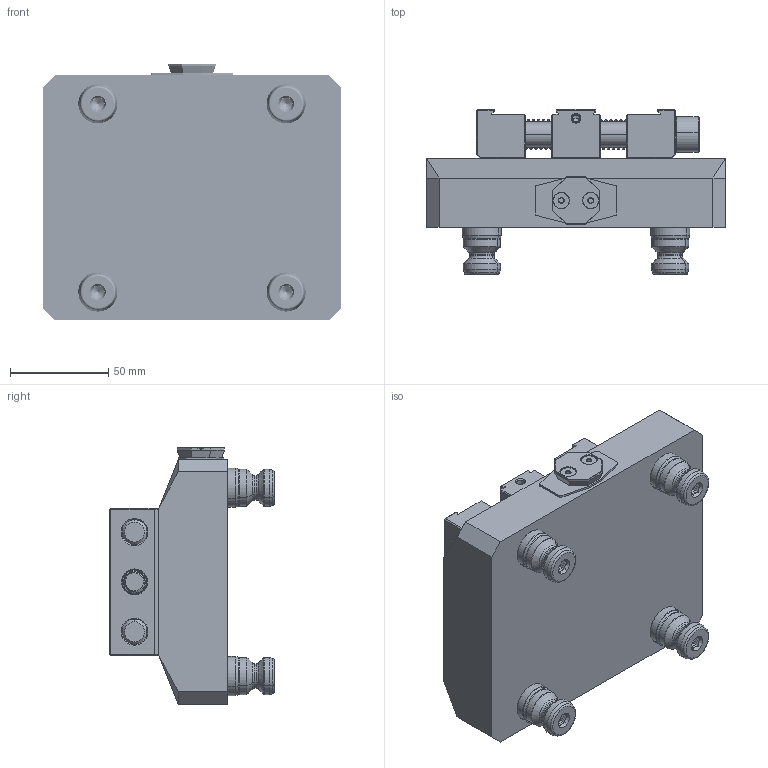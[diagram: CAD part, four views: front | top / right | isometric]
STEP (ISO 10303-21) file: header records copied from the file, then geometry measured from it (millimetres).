
FILE_DESCRIPTION (( 'STEP AP203' ), '1' );
FILE_NAME ('A96-PV3X-4A.STEP', '2022-02-09T18:20:37', ( '' ), ( '' ), 'SwSTEP 2.0', 'SolidWorks 2021', '' );
FILE_SCHEMA (( 'CONFIG_CONTROL_DESIGN' ));
Length unit declared in the file: millimetre
Products named in the file (20): PV3X-1_FINISHED PART ; PS20F-1_HARD TURN; 91263A829_ZINC-PLATED ALLOY STEEL HEX DRIVE FLAT HEAD SCREW_91263A829; LC045H10M_1.16374803; AS-TP; PV3X-4A_BOM; PS20F; PV3X-3A_FINISHED PART; 91595A100_METRIC ALLOY STEEL DOWEL PIN_91595A100; M12X100.SHCS_91290A646; AS-C; PV3X-2A_FINISHED PART; M10X25.CPSS_91390A162; AS-S; A96-PV3X-4A; M12X080.SHCS_91290A646; M06X010.DP_91595A438; A96-PV3X-1; M8X025_91290A432; 0500X4000.DP_0500X4000.DP
Assembly tree (28 placements, depth 3):
  A96-PV3X-4A
    PV3X-4A_BOM
      PV3X-1_FINISHED PART 
      PV3X-2A_FINISHED PART
      PV3X-3A_FINISHED PART
      0500X4000.DP_0500X4000.DP  x2
      M12X080.SHCS_91290A646
      M12X100.SHCS_91290A646
      LC045H10M_1.16374803  x2
      M8X025_91290A432  x2
      M06X010.DP_91595A438  x2
    AS-TP
      AS-C
      AS-S
      91263A829_ZINC-PLATED ALLOY STEEL HEX DRIVE FLAT HEAD SCREW_91263A829  x2
      91595A100_METRIC ALLOY STEEL DOWEL PIN_91595A100  x2
    A96-PV3X-1
    PS20F  x4
      PS20F-1_HARD TURN
      M10X25.CPSS_91390A162
Bounding box: 152.4 x 84 x 131 mm (x, y, z)
Volume: 797931.7 mm3; surface area: 140286.9 mm2
Topology: 28 solids, 28 shells, 2205 faces, 5611 edges, 3530 vertices
Faces by surface type: plane 834, cylinder 773, cone 318, bspline 176, torus 88, sphere 16
Entity records: 71727 total; most frequent: CARTESIAN_POINT 33549, ORIENTED_EDGE 8232, DIRECTION 6493, EDGE_CURVE 4116, VERTEX_POINT 2646, VECTOR 2259, LINE 2259, AXIS2_PLACEMENT_3D 2117
